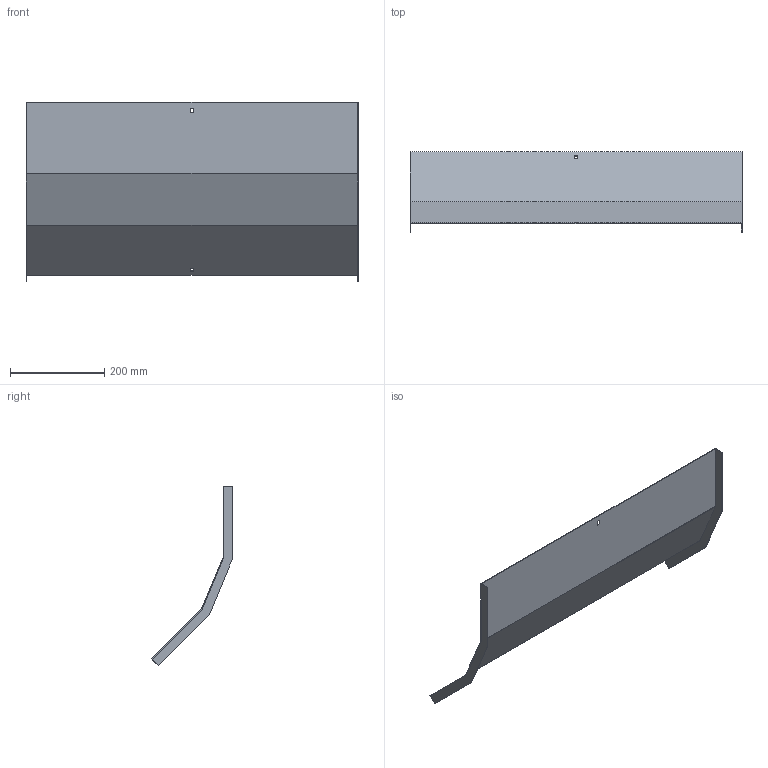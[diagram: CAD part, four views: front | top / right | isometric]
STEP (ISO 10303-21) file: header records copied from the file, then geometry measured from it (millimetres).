
FILE_DESCRIPTION (( 'STEP AP214' ), '1' );
FILE_NAME ('A2X31N3R700X.step', '2025-03-20T09:41:18', ( '' ), ( '' ), 'SwSTEP 2.0', 'SolidWorks 2023', '' );
FILE_SCHEMA (( 'AUTOMOTIVE_DESIGN' ));
Length unit declared in the file: millimetre
Products named in the file (1): A2X31N3R700X
Bounding box: 703 x 171.43 x 379.72 mm (x, y, z)
Volume: 465463.5 mm3; surface area: 624232.4 mm2
Topology: 1 solids, 1 shells, 26 faces, 72 edges, 48 vertices
Faces by surface type: plane 26
Entity records: 847 total; most frequent: CARTESIAN_POINT 147, ORIENTED_EDGE 144, DIRECTION 126, EDGE_CURVE 72, VECTOR 72, LINE 72, VERTEX_POINT 48, EDGE_LOOP 30
